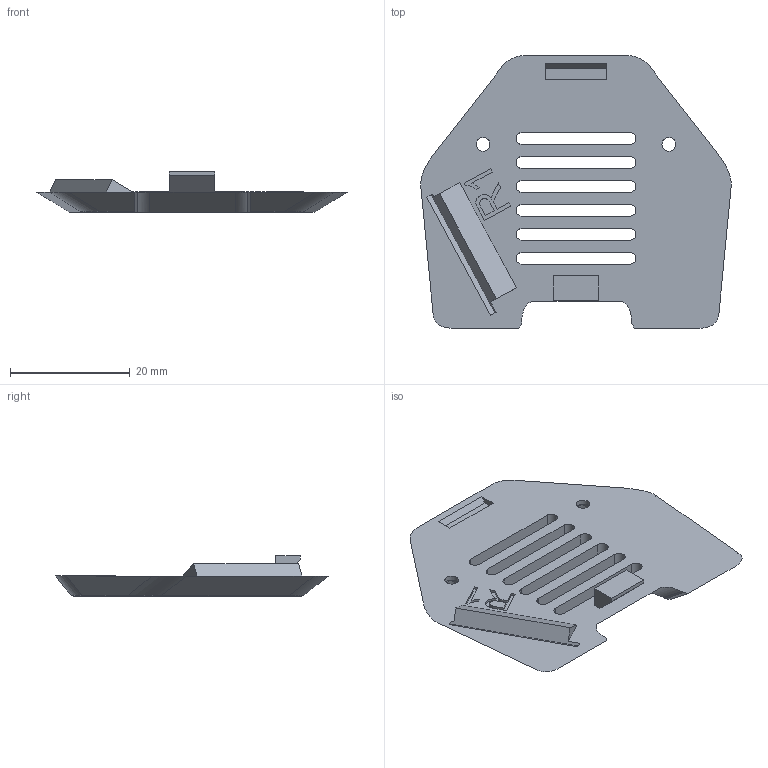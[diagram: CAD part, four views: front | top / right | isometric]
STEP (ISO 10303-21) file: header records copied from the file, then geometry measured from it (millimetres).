
FILE_DESCRIPTION(/* description */ (''),/* implementation_level */ '2;1');
FILE_NAME(/* name */ 'BUDDY CAMERA LID R1.step',/* time_stamp */ '2025-07-01T12:46:48+02:00',/* author */ (''),/* organization */ (''),/* preprocessor_version */ 'ST-DEVELOPER v20.1',/* originating_system */ 'Autodesk Translation Framework v14.10.0.0',/* authorisation */ '');
FILE_SCHEMA (('AUTOMOTIVE_DESIGN { 1 0 10303 214 3 1 1 }'));
Length unit declared in the file: millimetre
Products named in the file (2): Dil_1; id41
Assembly tree (1 placements, depth 2):
  Dil_1
    id41
Bounding box: 51.8 x 45.46 x 6.8 mm (x, y, z)
Volume: 4754.7 mm3; surface area: 4707.7 mm2
Topology: 1 solids, 1 shells, 178 faces, 464 edges, 294 vertices
Faces by surface type: plane 106, bspline 36, cylinder 24, cone 12
Full cylindrical faces by diameter (mm): 2.3 x2, 4.2 x2
Entity records: 5897 total; most frequent: CARTESIAN_POINT 1640, ORIENTED_EDGE 928, DIRECTION 752, EDGE_CURVE 464, LINE 324, VECTOR 324, VERTEX_POINT 294, AXIS2_PLACEMENT_3D 214
